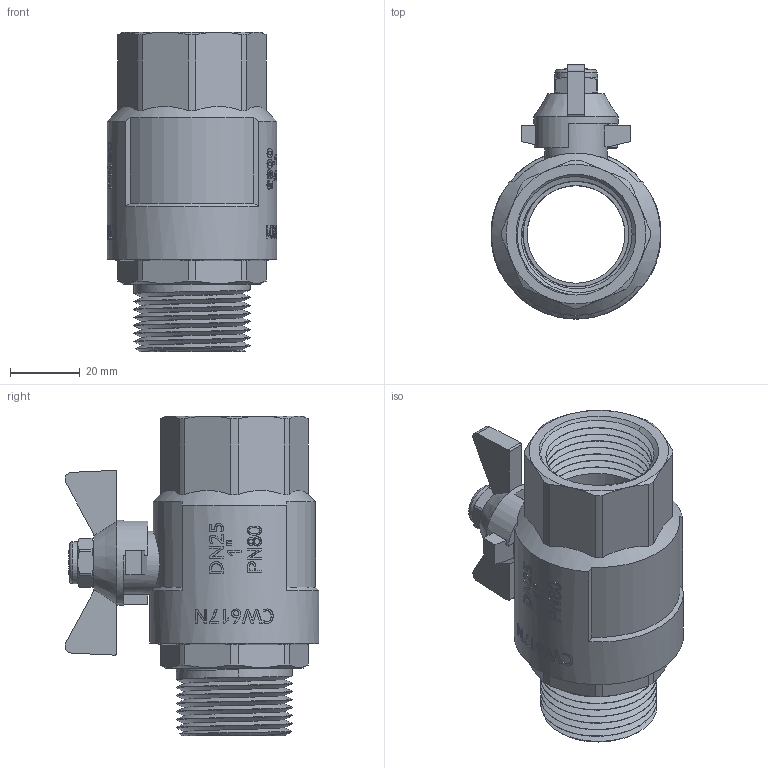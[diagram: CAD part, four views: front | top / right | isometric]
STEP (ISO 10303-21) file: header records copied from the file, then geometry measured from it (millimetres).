
FILE_DESCRIPTION(/* description */ (''),/* implementation_level */ '2;1');
FILE_NAME(/* name */ 'F:\Артём\00000\Работа удаленка\0\B\VT.318.N.06.stp',/* time_stamp */ '2021-02-03T16:25:45+03:00',/* author */ ('almis'),/* organization */ (''),/* preprocessor_version */ 'ST-DEVELOPER v18',/* originating_system */ 'Autodesk Inventor 2020',/* authorisation */ '');
FILE_SCHEMA (('AUTOMOTIVE_DESIGN { 1 0 10303 214 3 1 1 }'));
Length unit declared in the file: millimetre
Products named in the file (1): VT.318_ВH_1
Bounding box: 48.7 x 72.78 x 91.6 mm (x, y, z)
Volume: 79506.9 mm3; surface area: 31171 mm2
Topology: 1 solids, 1 shells, 573 faces, 1547 edges, 1027 vertices
Faces by surface type: bspline 220, plane 209, cylinder 122, cone 21, torus 1
Full cylindrical faces by diameter (mm): 12.078 x1, 18 x1, 24.322 x1, 28 x1, 28.7 x7, 30.3 x9, 33.3 x7, 34.9 x9, 48.5 x1
Entity records: 28935 total; most frequent: CARTESIAN_POINT 15737, ORIENTED_EDGE 3094, DIRECTION 1951, EDGE_CURVE 1547, VERTEX_POINT 1027, LINE 689, VECTOR 689, AXIS2_PLACEMENT_3D 631
